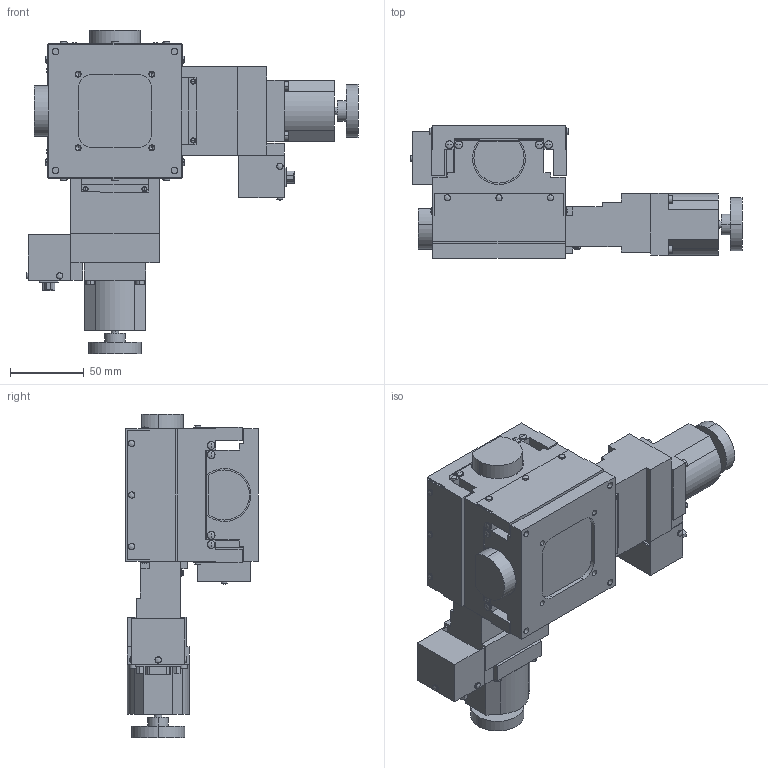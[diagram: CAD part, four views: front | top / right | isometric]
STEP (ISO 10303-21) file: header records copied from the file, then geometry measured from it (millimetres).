
FILE_DESCRIPTION (( 'STEP AP203' ), '1' );
FILE_NAME ('ALD-904-H1P.STEP', '2008-03-11T09:04:51', ( '' ), ( '' ), 'SwSTEP 2.0', 'SolidWorks 2007', '' );
FILE_SCHEMA (( 'CONFIG_CONTROL_DESIGN' ));
Length unit declared in the file: millimetre
Products named in the file (4): ALD-904-H1P-1_蹬怮椔; ALD-904-H1P; ALD-904-H1P-2_蹬怮椔; ALD-904-H1P-3_蹬怮椔
Assembly tree (3 placements, depth 2):
  ALD-904-H1P
    ALD-904-H1P-1_蹬怮椔
    ALD-904-H1P-2_蹬怮椔
    ALD-904-H1P-3_蹬怮椔
Bounding box: 225.44 x 90 x 220 mm (x, y, z)
Volume: 1091318.1 mm3; surface area: 189328.3 mm2
Topology: 3 solids, 17 shells, 909 faces, 2154 edges, 1398 vertices
Faces by surface type: plane 403, cylinder 336, cone 104, sphere 40, bspline 18, torus 8
Entity records: 30412 total; most frequent: CARTESIAN_POINT 8285, DIRECTION 4726, ORIENTED_EDGE 4276, EDGE_CURVE 2138, AXIS2_PLACEMENT_3D 1747, VERTEX_POINT 1398, LINE 1232, VECTOR 1232
